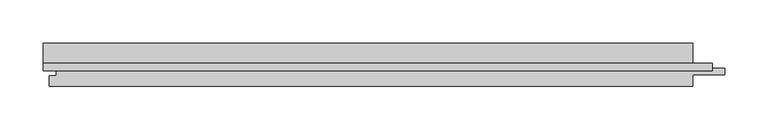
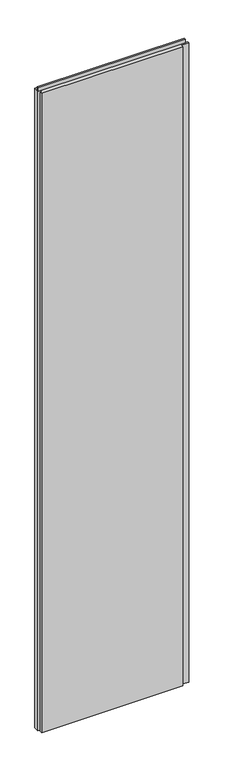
"""IFC4 building model written with IfcOpenShell, lengths in millimetres: plate geometry, Trimo_Qbiss Screen_Normal Panel-VERTICAL : HR - B."""

from ifc_helpers import new_model, si_unit, frame, origin, place, context, project, spatial, polyline, outline, extrude, source, transform, mapped, element, save


def plate_1d892687(model_context):
    return source(origin(), model_context, "Body", "SweptSolid", [
        extrude(outline(polyline([(-425.0, 93.9), (-425.0, 102.6), (352.0, 102.6), (352.0, 93.9), (-425.0, 93.9)])), frame((0.0, 0.0, 3590.5), z_axis=(0.0, 0.0, 1.0), x_axis=(1.0, 0.0, 0.0)), (0.0, 0.0, 1.0), 19.0),
        extrude(outline(polyline([(329.0, 97.0), (366.5, 97.0), (366.5, 89.0), (329.0, 89.0), (329.0, 76.0), (-418.0, 76.0), (-418.0, 88.0), (-409.5, 88.0), (-409.5, 98.0), (-425.0, 98.0), (-425.0, 126.0), (329.0, 126.0), (329.0, 97.0)])), frame((0.0, 0.0, 12.5), z_axis=(0.0, 0.0, 1.0), x_axis=(1.0, 0.0, 0.0)), (0.0, 0.0, 1.0), 3575.0),
    ])


if __name__ == "__main__":
    model = new_model("IFC4")
    model_context = context("Model", 3, world=origin())
    ifc_project = project(units=[si_unit("LENGTHUNIT", "METRE", prefix="MILLI")], contexts=[model_context])
    site = spatial("IfcSite", under=ifc_project)
    building = spatial("IfcBuilding", under=site)
    placement = place(None, origin())
    plate_shape = plate_1d892687(model_context)
    element("IfcPlate", 1, ObjectType="Trimo_Qbiss Screen_Normal Panel-VERTICAL : HR - B", at=placement, inside=building, context=model_context, shape_type="MappedRepresentation", body=[
        mapped(plate_shape, transform((0.0, 0.0, 0.0), x_axis=(1.0, 0.0, 0.0), y_axis=(0.0, 1.0, 0.0), z_axis=(0.0, 0.0, 1.0))),
    ])
    save(model, "model.ifc")
